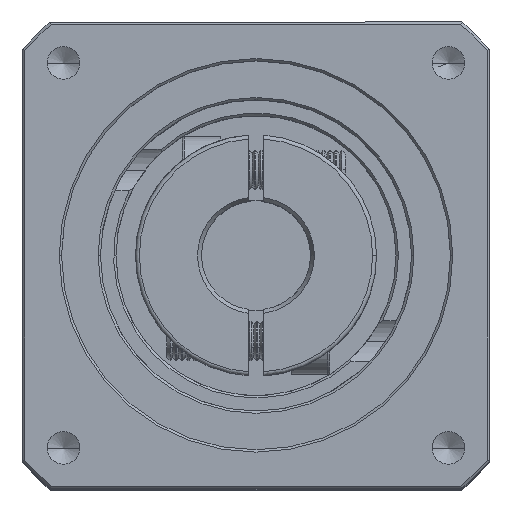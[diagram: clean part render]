
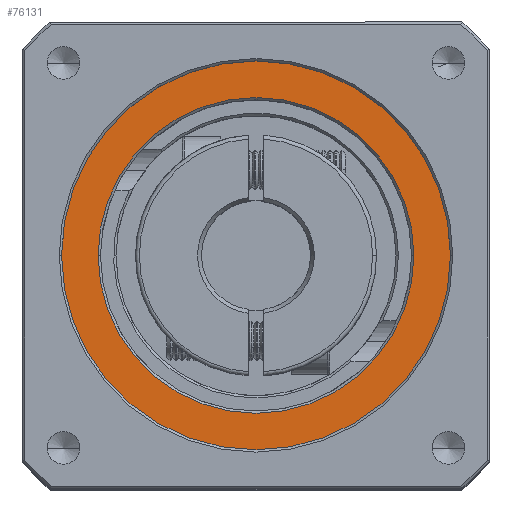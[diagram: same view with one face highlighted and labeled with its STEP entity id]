
A CAD part, top view. The second image highlights one B-rep face of the part: STEP entity #76131.
In plain terms, the highlighted planar face has unit normal (0, 0, 1).
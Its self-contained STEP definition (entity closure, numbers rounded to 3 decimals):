
#3166 = VERTEX_POINT ( 'NONE', #70342 ) ;
#3207 = CIRCLE ( 'NONE', #17386, 25. ) ;
#4878 = VERTEX_POINT ( 'NONE', #79670 ) ;
#5271 = CARTESIAN_POINT ( 'NONE',  ( -62.157, 27.835, 27.243 ) ) ;
#10830 = AXIS2_PLACEMENT_3D ( 'NONE', #38126, #84571, #44819 ) ;
#11164 = ORIENTED_EDGE ( 'NONE', *, *, #17787, .T. ) ;
#11582 = EDGE_CURVE ( 'NONE', #17544, #16772, #12886, .T. ) ;
#11648 = AXIS2_PLACEMENT_3D ( 'NONE', #5271, #51742, #11894 ) ;
#11894 = DIRECTION ( 'NONE',  ( 1., 0., 0. ) ) ;
#12886 = CIRCLE ( 'NONE', #85824, 20.3 ) ;
#15617 = DIRECTION ( 'NONE',  ( 0., 0., -1. ) ) ;
#15803 = CARTESIAN_POINT ( 'NONE',  ( -82.457, 27.835, 27.243 ) ) ;
#16772 = VERTEX_POINT ( 'NONE', #15803 ) ;
#17045 = CARTESIAN_POINT ( 'NONE',  ( -62.157, 27.835, 27.243 ) ) ;
#17386 = AXIS2_PLACEMENT_3D ( 'NONE', #17045, #63606, #23728 ) ;
#17464 = ORIENTED_EDGE ( 'NONE', *, *, #11582, .T. ) ;
#17544 = VERTEX_POINT ( 'NONE', #52592 ) ;
#17787 = EDGE_CURVE ( 'NONE', #3166, #4878, #3207, .T. ) ;
#17992 = PLANE ( 'NONE',  #11648 ) ;
#23728 = DIRECTION ( 'NONE',  ( 1., 0., 0. ) ) ;
#31532 = EDGE_LOOP ( 'NONE', ( #17464, #82906 ) ) ;
#32046 = DIRECTION ( 'NONE',  ( 0., 0., -1. ) ) ;
#38126 = CARTESIAN_POINT ( 'NONE',  ( -62.157, 27.835, 27.243 ) ) ;
#42802 = EDGE_LOOP ( 'NONE', ( #11164, #52906 ) ) ;
#42873 = EDGE_CURVE ( 'NONE', #16772, #17544, #78649, .T. ) ;
#43573 = FACE_BOUND ( 'NONE', #31532, .T. ) ;
#44819 = DIRECTION ( 'NONE',  ( 1., 0., 0. ) ) ;
#45458 = AXIS2_PLACEMENT_3D ( 'NONE', #55490, #15617, #62184 ) ;
#51742 = DIRECTION ( 'NONE',  ( 0., 0., 1. ) ) ;
#52592 = CARTESIAN_POINT ( 'NONE',  ( -41.857, 27.835, 27.243 ) ) ;
#52906 = ORIENTED_EDGE ( 'NONE', *, *, #68327, .T. ) ;
#55057 = FACE_OUTER_BOUND ( 'NONE', #42802, .T. ) ;
#55490 = CARTESIAN_POINT ( 'NONE',  ( -62.157, 27.835, 27.243 ) ) ;
#62184 = DIRECTION ( 'NONE',  ( 1., 0., 0. ) ) ;
#63606 = DIRECTION ( 'NONE',  ( 0., 0., 1. ) ) ;
#63829 = CIRCLE ( 'NONE', #10830, 25. ) ;
#68327 = EDGE_CURVE ( 'NONE', #4878, #3166, #63829, .T. ) ;
#70342 = CARTESIAN_POINT ( 'NONE',  ( -37.157, 27.835, 27.243 ) ) ;
#71917 = CARTESIAN_POINT ( 'NONE',  ( -62.157, 27.835, 27.243 ) ) ;
#76131 = ADVANCED_FACE ( 'NONE', ( #43573, #55057 ), #17992, .T. ) ;
#78567 = DIRECTION ( 'NONE',  ( 1., 0., 0. ) ) ;
#78649 = CIRCLE ( 'NONE', #45458, 20.3 ) ;
#79670 = CARTESIAN_POINT ( 'NONE',  ( -87.157, 27.835, 27.243 ) ) ;
#82906 = ORIENTED_EDGE ( 'NONE', *, *, #42873, .T. ) ;
#84571 = DIRECTION ( 'NONE',  ( 0., 0., 1. ) ) ;
#85824 = AXIS2_PLACEMENT_3D ( 'NONE', #71917, #32046, #78567 ) ;
